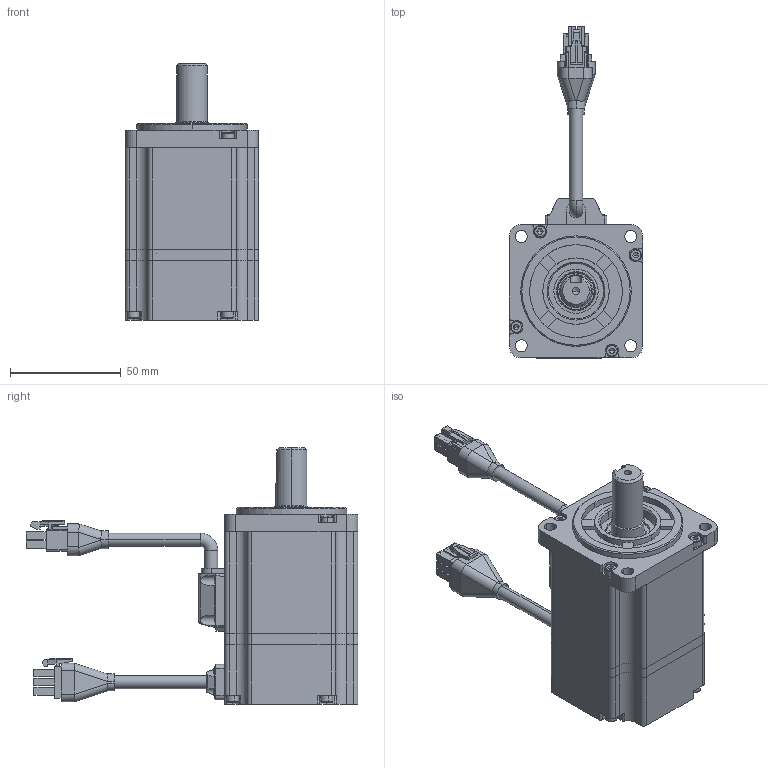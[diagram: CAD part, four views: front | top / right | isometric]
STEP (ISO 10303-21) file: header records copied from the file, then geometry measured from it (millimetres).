
FILE_DESCRIPTION (( 'STEP AP203' ), '1' );
FILE_NAME ('R60-400.STEP', '2019-08-23T07:10:15', ( '1' ), ( 'MideaGroup IT' ), 'SwSTEP 2.0', 'SolidWorks 2012', '' );
FILE_SCHEMA (( 'CONFIG_CONTROL_DESIGN' ));
Length unit declared in the file: millimetre
Products named in the file (25): R60-400; M3X28_GB_FASTENER_SCREWS_HSHCS M3X25-C; 雄薯盄揤裔郪璃; 雄薯盄傷赽裔; 雄薯盄; 雄薯盄傷赽; 雄薯盄躇猾菜; 雄薯盄揤裔; 毀嚏盄揤裔郪璃; 毀嚏盄傷赽揤裔; M2.5X5_GB_CROSS_SCREWS_TYPE3 M2.5X8-8-N; 晤鎢ん盄傷赽; 晤鎢ん盄揤裔躇猾; 晤鎢ん盄揤裔; 蛌赽郪璃-001; 6003; 6003_qiu; 6003_bq; 6003_nh; 6003_wq; 萇儂粣-001; 綴裔-001; 綴傷裔-001; ヶ傷裔-001; 儂褲-001
Assembly tree (48 placements, depth 4):
  R60-400
    儂褲-001
    ヶ傷裔-001
    綴傷裔-001
    綴裔-001
    蛌赽郪璃-001
      萇儂粣-001
      6003
        6003_wq
        6003_nh
        6003_bq
        6003_qiu  x11
    毀嚏盄揤裔郪璃
      晤鎢ん盄揤裔
      晤鎢ん盄揤裔躇猾
      晤鎢ん盄傷赽
      M2.5X5_GB_CROSS_SCREWS_TYPE3 M2.5X8-8-N  x4
      毀嚏盄傷赽揤裔
    雄薯盄揤裔郪璃
      雄薯盄揤裔
      雄薯盄躇猾菜
      雄薯盄傷赽
      雄薯盄
      M2.5X5_GB_CROSS_SCREWS_TYPE3 M2.5X8-8-N  x4
      雄薯盄傷赽裔
    M3X28_GB_FASTENER_SCREWS_HSHCS M3X25-C  x8
Bounding box: 60.2 x 150 x 116 mm (x, y, z)
Volume: 127073 mm3; surface area: 89444.2 mm2
Topology: 46 solids, 72 shells, 1571 faces, 4264 edges, 2810 vertices
Faces by surface type: plane 766, cylinder 608, cone 89, torus 56, sphere 38, bspline 14
Entity records: 46423 total; most frequent: CARTESIAN_POINT 11960, DIRECTION 6598, ORIENTED_EDGE 6293, EDGE_CURVE 3327, AXIS2_PLACEMENT_3D 2334, VERTEX_POINT 2214, VECTOR 1930, LINE 1930
